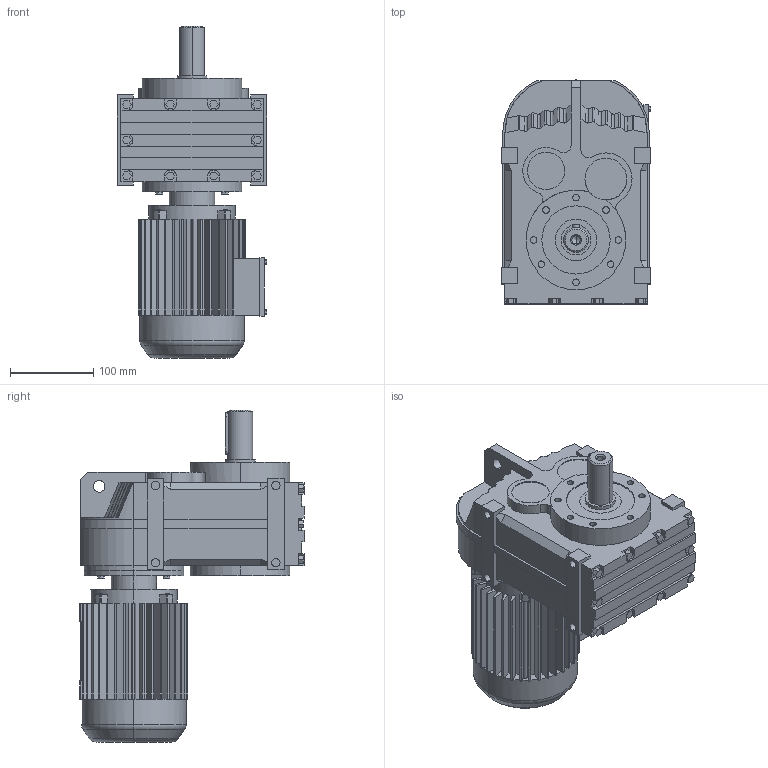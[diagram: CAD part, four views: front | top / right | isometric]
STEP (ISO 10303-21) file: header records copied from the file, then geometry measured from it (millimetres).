
FILE_DESCRIPTION(('Open CASCADE Model'),'2;1');
FILE_NAME('Open CASCADE Shape Model','2018-09-11T15:22:45',('Author'),( 'Open CASCADE'),'Open CASCADE STEP processor 6.3','Open CASCADE 6.3' ,'Unknown');
FILE_SCHEMA(('AUTOMOTIVE_DESIGN_CC2 { 1 2 10303 214 -1 1 5 4 }'));
Length unit declared in the file: millimetre
Products named in the file (4): 1_F47-Y63S; FA27‵157_47.step; 萇儂_120_Y63S.step; す瑩妗陑粣F_47.step
Assembly tree (3 placements, depth 2):
  1_F47-Y63S
    FA27‵157_47.step
    萇儂_120_Y63S.step
    す瑩妗陑粣F_47.step
Bounding box: 180 x 270.1 x 400 mm (x, y, z)
Volume: 7006983.2 mm3; surface area: 479532 mm2
Topology: 3 solids, 3 shells, 792 faces, 2086 edges, 1354 vertices
Faces by surface type: plane 566, cylinder 198, bspline 16, cone 8, torus 4
Entity records: 53181 total; most frequent: CARTESIAN_POINT 13155, DIRECTION 7003, ORIENTED_EDGE 4168, PCURVE 4168, DEFINITIONAL_REPRESENTATION 4168, LINE 3941, VECTOR 3941, EDGE_CURVE 2084
